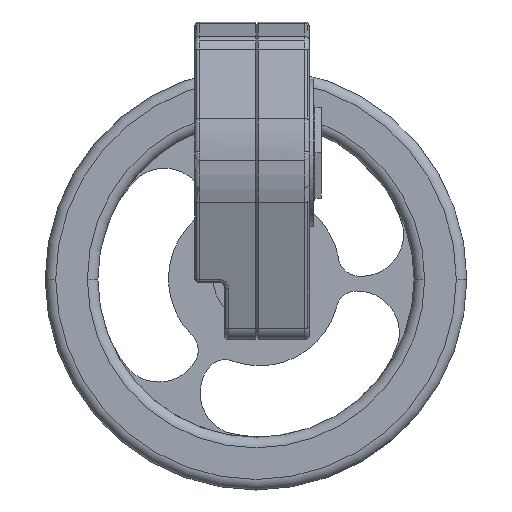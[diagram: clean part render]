
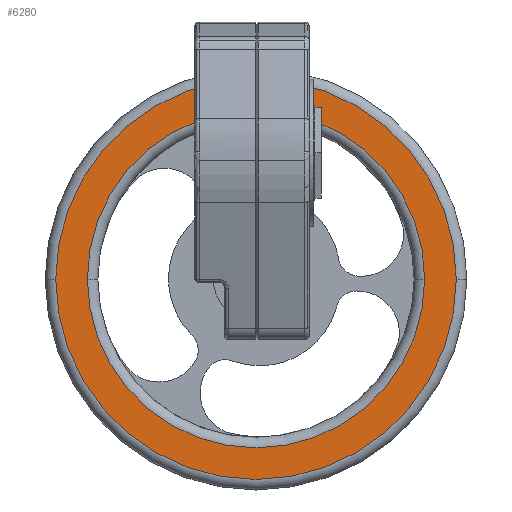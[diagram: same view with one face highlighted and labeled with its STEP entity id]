
A CAD part, left-side view. The second image highlights one B-rep face of the part: STEP entity #6280.
In plain terms, the highlighted planar face has unit normal (-1, 0, 0).
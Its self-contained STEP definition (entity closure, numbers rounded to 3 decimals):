
#5873=CARTESIAN_POINT('',(226.999,66.,-60.312));
#5874=VERTEX_POINT('',#5873);
#5884=CARTESIAN_POINT('',(226.999,-124.,-60.312));
#5885=VERTEX_POINT('',#5884);
#5886=CARTESIAN_POINT('',(226.999,-29.,-60.312));
#5887=DIRECTION('',(1.0,0.0,0.0));
#5888=DIRECTION('',(0.0,-1.0,0.0));
#5889=AXIS2_PLACEMENT_3D('',#5886,#5887,#5888);
#5890=CIRCLE('',#5889,95.0);
#5891=EDGE_CURVE('',#5874,#5885,#5890,.T.);
#6129=CARTESIAN_POINT('',(226.999,51.,-60.312));
#6130=VERTEX_POINT('',#6129);
#6139=CARTESIAN_POINT('',(226.999,-109.,-60.312));
#6140=VERTEX_POINT('',#6139);
#6148=CARTESIAN_POINT('',(226.999,-29.,-60.312));
#6149=DIRECTION('',(-1.0,0.0,0.0));
#6150=DIRECTION('',(0.0,-1.0,0.0));
#6151=AXIS2_PLACEMENT_3D('',#6148,#6149,#6150);
#6152=CIRCLE('',#6151,80.0);
#6153=EDGE_CURVE('',#6140,#6130,#6152,.T.);
#6164=CARTESIAN_POINT('',(226.999,-29.,-60.312));
#6165=DIRECTION('',(-1.0,0.0,0.0));
#6166=DIRECTION('',(0.0,-1.0,0.0));
#6167=AXIS2_PLACEMENT_3D('',#6164,#6165,#6166);
#6168=CIRCLE('',#6167,80.0);
#6169=EDGE_CURVE('',#6130,#6140,#6168,.T.);
#6261=CARTESIAN_POINT('',(226.999,-29.,-60.312));
#6262=DIRECTION('',(1.0,0.0,0.0));
#6263=DIRECTION('',(0.0,1.0,0.0));
#6264=AXIS2_PLACEMENT_3D('',#6261,#6262,#6263);
#6265=PLANE('',#6264);
#6266=ORIENTED_EDGE('',*,*,#5891,.F.);
#6267=CARTESIAN_POINT('',(226.999,-29.,-60.312));
#6268=DIRECTION('',(1.0,0.0,0.0));
#6269=DIRECTION('',(0.0,-1.0,0.0));
#6270=AXIS2_PLACEMENT_3D('',#6267,#6268,#6269);
#6271=CIRCLE('',#6270,95.0);
#6272=EDGE_CURVE('',#5885,#5874,#6271,.T.);
#6273=ORIENTED_EDGE('',*,*,#6272,.F.);
#6274=EDGE_LOOP('',(#6266,#6273));
#6275=FACE_OUTER_BOUND('',#6274,.T.);
#6276=ORIENTED_EDGE('',*,*,#6169,.F.);
#6277=ORIENTED_EDGE('',*,*,#6153,.F.);
#6278=EDGE_LOOP('',(#6276,#6277));
#6279=FACE_BOUND('',#6278,.T.);
#6280=ADVANCED_FACE('',(#6275,#6279),#6265,.F.);
